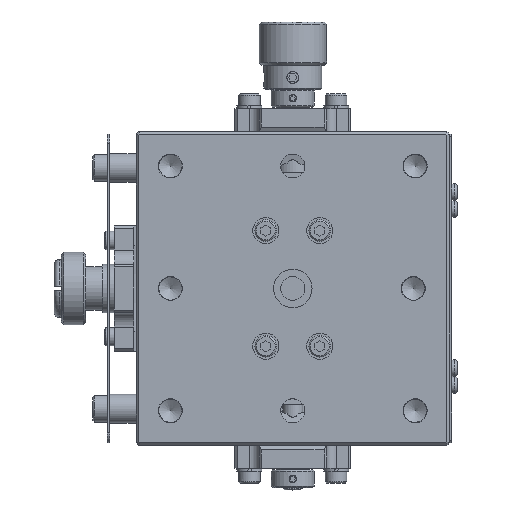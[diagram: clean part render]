
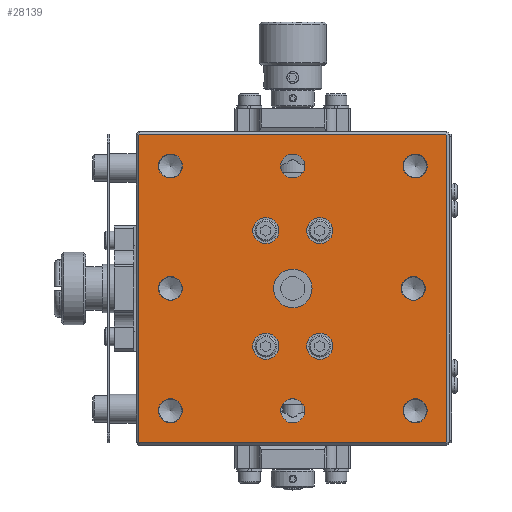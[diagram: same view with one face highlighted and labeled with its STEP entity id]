
A CAD part, top view. The second image highlights one B-rep face of the part: STEP entity #28139.
In plain terms, the highlighted planar face has unit normal (0, 0, 1).
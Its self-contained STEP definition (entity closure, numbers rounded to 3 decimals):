
#27596=CARTESIAN_POINT('',(-32.0,31.793,-100.0));
#27597=VERTEX_POINT('',#27596);
#27598=CARTESIAN_POINT('',(-31.793,32.,-100.0));
#27599=VERTEX_POINT('',#27598);
#27600=CARTESIAN_POINT('',(-32.0,31.793,-100.0));
#27601=DIRECTION('',(0.707,0.707,0.0));
#27602=VECTOR('',#27601,0.293);
#27603=LINE('',#27600,#27602);
#27604=EDGE_CURVE('',#27597,#27599,#27603,.T.);
#27636=CARTESIAN_POINT('',(-32.0,-31.793,-100.0));
#27637=VERTEX_POINT('',#27636);
#27638=CARTESIAN_POINT('',(-32.0,-31.793,-100.0));
#27639=DIRECTION('',(0.0,1.0,0.0));
#27640=VECTOR('',#27639,63.586);
#27641=LINE('',#27638,#27640);
#27642=EDGE_CURVE('',#27637,#27597,#27641,.T.);
#27686=CARTESIAN_POINT('',(31.793,32.,-100.0));
#27687=VERTEX_POINT('',#27686);
#27688=CARTESIAN_POINT('',(-31.793,32.,-100.0));
#27689=DIRECTION('',(1.0,0.0,0.0));
#27690=VECTOR('',#27689,63.586);
#27691=LINE('',#27688,#27690);
#27692=EDGE_CURVE('',#27599,#27687,#27691,.T.);
#27708=CARTESIAN_POINT('',(31.793,-32.,-100.0));
#27709=VERTEX_POINT('',#27708);
#27710=CARTESIAN_POINT('',(-31.793,-32.,-100.0));
#27711=VERTEX_POINT('',#27710);
#27712=CARTESIAN_POINT('',(31.793,-32.,-100.0));
#27713=DIRECTION('',(-1.0,0.0,0.0));
#27714=VECTOR('',#27713,63.586);
#27715=LINE('',#27712,#27714);
#27716=EDGE_CURVE('',#27709,#27711,#27715,.T.);
#27746=CARTESIAN_POINT('',(32.,-31.793,-100.0));
#27747=VERTEX_POINT('',#27746);
#27748=CARTESIAN_POINT('',(32.,-31.793,-100.0));
#27749=DIRECTION('',(-0.707,-0.707,0.0));
#27750=VECTOR('',#27749,0.293);
#27751=LINE('',#27748,#27750);
#27752=EDGE_CURVE('',#27747,#27709,#27751,.T.);
#27775=CARTESIAN_POINT('',(32.,31.793,-100.0));
#27776=VERTEX_POINT('',#27775);
#27777=CARTESIAN_POINT('',(32.,31.793,-100.0));
#27778=DIRECTION('',(0.0,-1.0,0.0));
#27779=VECTOR('',#27778,63.586);
#27780=LINE('',#27777,#27779);
#27781=EDGE_CURVE('',#27776,#27747,#27780,.T.);
#27801=CARTESIAN_POINT('',(31.793,32.,-100.0));
#27802=DIRECTION('',(0.707,-0.707,0.0));
#27803=VECTOR('',#27802,0.293);
#27804=LINE('',#27801,#27803);
#27805=EDGE_CURVE('',#27687,#27776,#27804,.T.);
#27818=CARTESIAN_POINT('',(-31.793,-32.,-100.0));
#27819=DIRECTION('',(-0.707,0.707,0.0));
#27820=VECTOR('',#27819,0.293);
#27821=LINE('',#27818,#27820);
#27822=EDGE_CURVE('',#27711,#27637,#27821,.T.);
#27981=CARTESIAN_POINT('',(32.5,-32.5,-100.0));
#27982=DIRECTION('',(0.0,0.0,-1.0));
#27983=DIRECTION('',(-1.0,0.0,0.0));
#27984=AXIS2_PLACEMENT_3D('',#27981,#27982,#27983);
#27985=PLANE('',#27984);
#27986=ORIENTED_EDGE('',*,*,#27716,.F.);
#27987=ORIENTED_EDGE('',*,*,#27752,.F.);
#27988=ORIENTED_EDGE('',*,*,#27781,.F.);
#27989=ORIENTED_EDGE('',*,*,#27805,.F.);
#27990=ORIENTED_EDGE('',*,*,#27692,.F.);
#27991=ORIENTED_EDGE('',*,*,#27604,.F.);
#27992=ORIENTED_EDGE('',*,*,#27642,.F.);
#27993=ORIENTED_EDGE('',*,*,#27822,.F.);
#27994=EDGE_LOOP('',(#27986,#27987,#27988,#27989,#27990,#27991,#27992,#27993));
#27995=FACE_OUTER_BOUND('',#27994,.T.);
#27996=CARTESIAN_POINT('',(4.,0.,-100.0));
#27997=VERTEX_POINT('',#27996);
#27998=CARTESIAN_POINT('',(0.,0.,-100.0));
#27999=DIRECTION('',(0.0,0.0,-1.0));
#28000=DIRECTION('',(-1.0,0.0,0.0));
#28001=AXIS2_PLACEMENT_3D('',#27998,#27999,#28000);
#28002=CIRCLE('',#28001,4.0);
#28003=EDGE_CURVE('',#27997,#27997,#28002,.T.);
#28004=ORIENTED_EDGE('',*,*,#28003,.T.);
#28005=EDGE_LOOP('',(#28004));
#28006=FACE_BOUND('',#28005,.T.);
#28007=CARTESIAN_POINT('',(2.489,25.4,-100.0));
#28008=VERTEX_POINT('',#28007);
#28009=CARTESIAN_POINT('',(0.,25.4,-100.0));
#28010=DIRECTION('',(0.0,0.0,-1.0));
#28011=DIRECTION('',(1.0,0.0,0.0));
#28012=AXIS2_PLACEMENT_3D('',#28009,#28010,#28011);
#28013=CIRCLE('',#28012,2.489);
#28014=EDGE_CURVE('',#28008,#28008,#28013,.T.);
#28015=ORIENTED_EDGE('',*,*,#28014,.T.);
#28016=EDGE_LOOP('',(#28015));
#28017=FACE_BOUND('',#28016,.T.);
#28018=CARTESIAN_POINT('',(2.489,-25.4,-100.0));
#28019=VERTEX_POINT('',#28018);
#28020=CARTESIAN_POINT('',(0.,-25.4,-100.0));
#28021=DIRECTION('',(0.0,0.0,-1.0));
#28022=DIRECTION('',(1.0,0.0,0.0));
#28023=AXIS2_PLACEMENT_3D('',#28020,#28021,#28022);
#28024=CIRCLE('',#28023,2.489);
#28025=EDGE_CURVE('',#28019,#28019,#28024,.T.);
#28026=ORIENTED_EDGE('',*,*,#28025,.T.);
#28027=EDGE_LOOP('',(#28026));
#28028=FACE_BOUND('',#28027,.T.);
#28029=CARTESIAN_POINT('',(27.489,0.,-100.0));
#28030=VERTEX_POINT('',#28029);
#28031=CARTESIAN_POINT('',(25.0,0.,-100.0));
#28032=DIRECTION('',(0.0,0.0,-1.0));
#28033=DIRECTION('',(1.0,0.0,0.0));
#28034=AXIS2_PLACEMENT_3D('',#28031,#28032,#28033);
#28035=CIRCLE('',#28034,2.489);
#28036=EDGE_CURVE('',#28030,#28030,#28035,.T.);
#28037=ORIENTED_EDGE('',*,*,#28036,.T.);
#28038=EDGE_LOOP('',(#28037));
#28039=FACE_BOUND('',#28038,.T.);
#28040=CARTESIAN_POINT('',(-22.911,0.,-100.0));
#28041=VERTEX_POINT('',#28040);
#28042=CARTESIAN_POINT('',(-25.4,0.,-100.0));
#28043=DIRECTION('',(0.0,0.0,-1.0));
#28044=DIRECTION('',(1.0,0.0,0.0));
#28045=AXIS2_PLACEMENT_3D('',#28042,#28043,#28044);
#28046=CIRCLE('',#28045,2.489);
#28047=EDGE_CURVE('',#28041,#28041,#28046,.T.);
#28048=ORIENTED_EDGE('',*,*,#28047,.T.);
#28049=EDGE_LOOP('',(#28048));
#28050=FACE_BOUND('',#28049,.T.);
#28051=CARTESIAN_POINT('',(27.889,25.4,-100.0));
#28052=VERTEX_POINT('',#28051);
#28053=CARTESIAN_POINT('',(25.4,25.4,-100.0));
#28054=DIRECTION('',(0.0,0.0,-1.0));
#28055=DIRECTION('',(1.0,0.0,0.0));
#28056=AXIS2_PLACEMENT_3D('',#28053,#28054,#28055);
#28057=CIRCLE('',#28056,2.489);
#28058=EDGE_CURVE('',#28052,#28052,#28057,.T.);
#28059=ORIENTED_EDGE('',*,*,#28058,.T.);
#28060=EDGE_LOOP('',(#28059));
#28061=FACE_BOUND('',#28060,.T.);
#28062=CARTESIAN_POINT('',(-22.911,25.4,-100.0));
#28063=VERTEX_POINT('',#28062);
#28064=CARTESIAN_POINT('',(-25.4,25.4,-100.0));
#28065=DIRECTION('',(0.0,0.0,-1.0));
#28066=DIRECTION('',(1.0,0.0,0.0));
#28067=AXIS2_PLACEMENT_3D('',#28064,#28065,#28066);
#28068=CIRCLE('',#28067,2.489);
#28069=EDGE_CURVE('',#28063,#28063,#28068,.T.);
#28070=ORIENTED_EDGE('',*,*,#28069,.T.);
#28071=EDGE_LOOP('',(#28070));
#28072=FACE_BOUND('',#28071,.T.);
#28073=CARTESIAN_POINT('',(27.889,-25.4,-100.0));
#28074=VERTEX_POINT('',#28073);
#28075=CARTESIAN_POINT('',(25.4,-25.4,-100.0));
#28076=DIRECTION('',(0.0,0.0,-1.0));
#28077=DIRECTION('',(1.0,0.0,0.0));
#28078=AXIS2_PLACEMENT_3D('',#28075,#28076,#28077);
#28079=CIRCLE('',#28078,2.489);
#28080=EDGE_CURVE('',#28074,#28074,#28079,.T.);
#28081=ORIENTED_EDGE('',*,*,#28080,.T.);
#28082=EDGE_LOOP('',(#28081));
#28083=FACE_BOUND('',#28082,.T.);
#28084=CARTESIAN_POINT('',(-22.911,-25.4,-100.0));
#28085=VERTEX_POINT('',#28084);
#28086=CARTESIAN_POINT('',(-25.4,-25.4,-100.0));
#28087=DIRECTION('',(0.0,0.0,-1.0));
#28088=DIRECTION('',(1.0,0.0,0.0));
#28089=AXIS2_PLACEMENT_3D('',#28086,#28087,#28088);
#28090=CIRCLE('',#28089,2.489);
#28091=EDGE_CURVE('',#28085,#28085,#28090,.T.);
#28092=ORIENTED_EDGE('',*,*,#28091,.T.);
#28093=EDGE_LOOP('',(#28092));
#28094=FACE_BOUND('',#28093,.T.);
#28095=CARTESIAN_POINT('',(8.3,12.,-100.0));
#28096=VERTEX_POINT('',#28095);
#28097=CARTESIAN_POINT('',(5.6,12.,-100.0));
#28098=DIRECTION('',(0.0,0.0,-1.0));
#28099=DIRECTION('',(1.0,0.0,0.0));
#28100=AXIS2_PLACEMENT_3D('',#28097,#28098,#28099);
#28101=CIRCLE('',#28100,2.7);
#28102=EDGE_CURVE('',#28096,#28096,#28101,.T.);
#28103=ORIENTED_EDGE('',*,*,#28102,.T.);
#28104=EDGE_LOOP('',(#28103));
#28105=FACE_BOUND('',#28104,.T.);
#28106=CARTESIAN_POINT('',(-2.9,12.,-100.0));
#28107=VERTEX_POINT('',#28106);
#28108=CARTESIAN_POINT('',(-5.6,12.,-100.0));
#28109=DIRECTION('',(0.0,0.0,-1.0));
#28110=DIRECTION('',(1.0,0.0,0.0));
#28111=AXIS2_PLACEMENT_3D('',#28108,#28109,#28110);
#28112=CIRCLE('',#28111,2.7);
#28113=EDGE_CURVE('',#28107,#28107,#28112,.T.);
#28114=ORIENTED_EDGE('',*,*,#28113,.T.);
#28115=EDGE_LOOP('',(#28114));
#28116=FACE_BOUND('',#28115,.T.);
#28117=CARTESIAN_POINT('',(8.3,-12.,-100.0));
#28118=VERTEX_POINT('',#28117);
#28119=CARTESIAN_POINT('',(5.6,-12.,-100.0));
#28120=DIRECTION('',(0.0,0.0,-1.0));
#28121=DIRECTION('',(1.0,0.0,0.0));
#28122=AXIS2_PLACEMENT_3D('',#28119,#28120,#28121);
#28123=CIRCLE('',#28122,2.7);
#28124=EDGE_CURVE('',#28118,#28118,#28123,.T.);
#28125=ORIENTED_EDGE('',*,*,#28124,.T.);
#28126=EDGE_LOOP('',(#28125));
#28127=FACE_BOUND('',#28126,.T.);
#28128=CARTESIAN_POINT('',(-2.9,-12.,-100.0));
#28129=VERTEX_POINT('',#28128);
#28130=CARTESIAN_POINT('',(-5.6,-12.,-100.0));
#28131=DIRECTION('',(0.0,0.0,-1.0));
#28132=DIRECTION('',(1.0,0.0,0.0));
#28133=AXIS2_PLACEMENT_3D('',#28130,#28131,#28132);
#28134=CIRCLE('',#28133,2.7);
#28135=EDGE_CURVE('',#28129,#28129,#28134,.T.);
#28136=ORIENTED_EDGE('',*,*,#28135,.T.);
#28137=EDGE_LOOP('',(#28136));
#28138=FACE_BOUND('',#28137,.T.);
#28139=ADVANCED_FACE('',(#27995,#28006,#28017,#28028,#28039,#28050,#28061,#28072,#28083,#28094,#28105,#28116,#28127,#28138),#27985,.F.);
